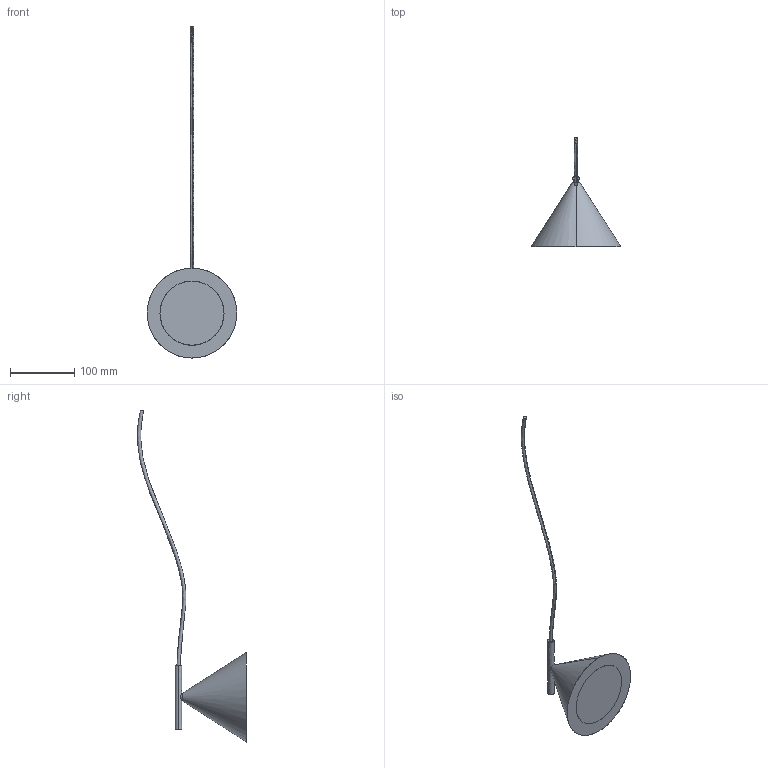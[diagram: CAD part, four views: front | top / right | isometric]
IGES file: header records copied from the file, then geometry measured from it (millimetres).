
Start section: SolidWorks IGES file using analytic representation for surfaces
Global section: file name: C:\Users\Agus\Desktop\Novedades Enero_2022 - 3D\cono marmol\S1300.IGS; native system: SolidWorks 2018; preprocessor: SolidWorks 2018; author: Agus; date: 220221.100133; units: millimetre
Bounding box: 140 x 169.96 x 518.15 mm (x, y, z)
Surface area: 71499.9 mm2 (no closed solid volume)
Topology: 0 solids, 0 shells, 29 faces, 782 edges, 782 vertices
Faces by surface type: bspline 15, revolution 14
